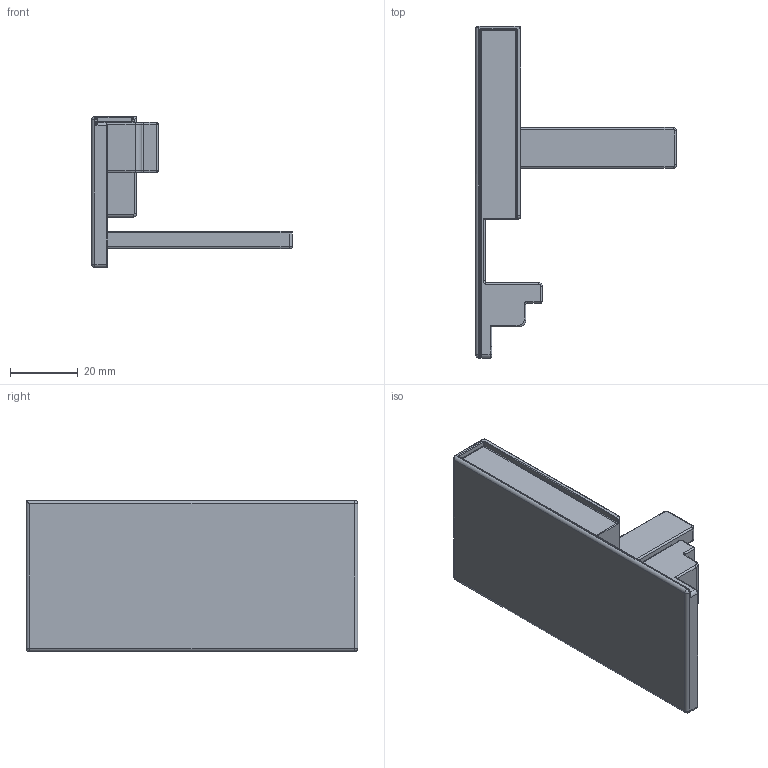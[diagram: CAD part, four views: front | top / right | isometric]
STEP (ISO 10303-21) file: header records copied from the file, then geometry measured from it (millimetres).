
FILE_DESCRIPTION (( 'STEP AP203' ), '1' );
FILE_NAME ('HT11012-L.STEP', '2021-03-30T01:01:32', ( 'Users' ), ( 'Microsoft' ), 'SwSTEP 2.0', 'SolidWorks 2018', '' );
FILE_SCHEMA (( 'CONFIG_CONTROL_DESIGN' ));
Length unit declared in the file: millimetre
Products named in the file (1): HT11012-L
Bounding box: 59.1 x 97.6 x 44.4 mm (x, y, z)
Volume: 35206.9 mm3; surface area: 14051.2 mm2
Topology: 1 solids, 1 shells, 144 faces, 353 edges, 204 vertices
Faces by surface type: cylinder 79, plane 28, torus 27, sphere 7, bspline 3
Entity records: 4294 total; most frequent: CARTESIAN_POINT 822, DIRECTION 768, ORIENTED_EDGE 688, EDGE_CURVE 344, AXIS2_PLACEMENT_3D 298, VERTEX_POINT 204, LINE 172, VECTOR 172
